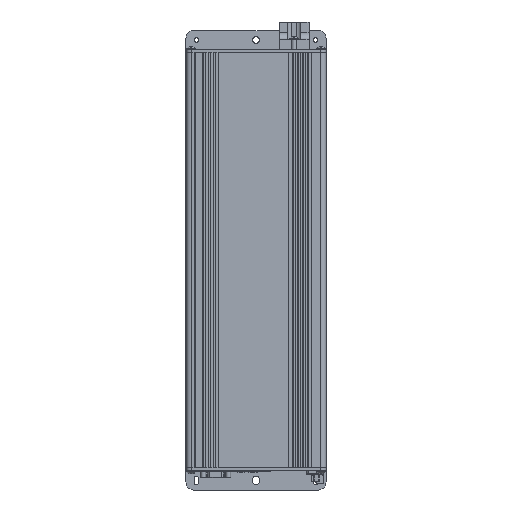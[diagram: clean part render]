
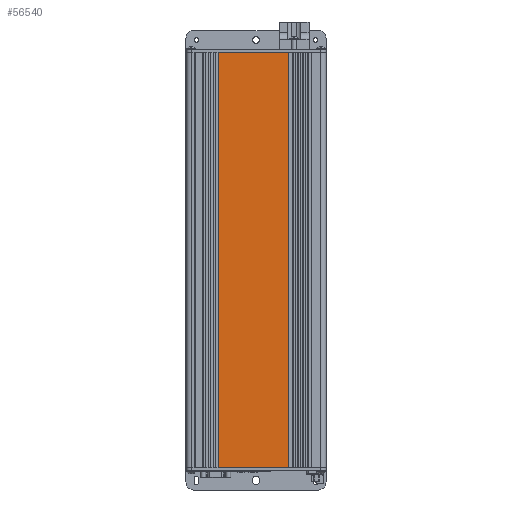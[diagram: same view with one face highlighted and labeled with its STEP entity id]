
A CAD part, left-side view. The second image highlights one B-rep face of the part: STEP entity #56540.
In plain terms, the highlighted planar face has unit normal (-1, 0, 0).
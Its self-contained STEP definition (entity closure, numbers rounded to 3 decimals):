
#4075=PLANE('',#60683);
#6384=FACE_OUTER_BOUND('',#9326,.T.);
#9326=EDGE_LOOP('',(#47736,#47737,#47738,#47739));
#13415=LINE('',#104003,#17825);
#13416=LINE('',#104006,#17826);
#13417=LINE('',#104008,#17827);
#13418=LINE('',#104009,#17828);
#17825=VECTOR('',#71582,0.394);
#17826=VECTOR('',#71585,0.394);
#17827=VECTOR('',#71586,0.394);
#17828=VECTOR('',#71587,0.394);
#25685=VERTEX_POINT('',#103999);
#25686=VERTEX_POINT('',#104001);
#25687=VERTEX_POINT('',#104005);
#25688=VERTEX_POINT('',#104007);
#33362=EDGE_CURVE('',#25685,#25686,#13415,.T.);
#33363=EDGE_CURVE('',#25685,#25687,#13416,.T.);
#33364=EDGE_CURVE('',#25688,#25686,#13417,.T.);
#33365=EDGE_CURVE('',#25687,#25688,#13418,.T.);
#47736=ORIENTED_EDGE('',*,*,#33363,.F.);
#47737=ORIENTED_EDGE('',*,*,#33362,.T.);
#47738=ORIENTED_EDGE('',*,*,#33364,.F.);
#47739=ORIENTED_EDGE('',*,*,#33365,.F.);
#56540=ADVANCED_FACE('',(#6384),#4075,.T.);
#60683=AXIS2_PLACEMENT_3D('',#104004,#71583,#71584);
#71582=DIRECTION('',(0.,0.,-1.));
#71583=DIRECTION('center_axis',(-1.,0.,0.));
#71584=DIRECTION('ref_axis',(0.,1.,0.));
#71585=DIRECTION('',(0.,-1.,0.));
#71586=DIRECTION('',(0.,1.,0.));
#71587=DIRECTION('',(0.,0.,-1.));
#103999=CARTESIAN_POINT('',(2.214,5.21,18.537));
#104001=CARTESIAN_POINT('',(2.214,5.21,2.198));
#104003=CARTESIAN_POINT('',(2.214,5.21,18.537));
#104004=CARTESIAN_POINT('Origin',(2.214,2.454,18.537));
#104005=CARTESIAN_POINT('',(2.214,2.454,18.537));
#104006=CARTESIAN_POINT('',(2.214,3.092,18.537));
#104007=CARTESIAN_POINT('',(2.214,2.454,2.198));
#104008=CARTESIAN_POINT('',(2.214,3.092,2.198));
#104009=CARTESIAN_POINT('',(2.214,2.454,18.537));
